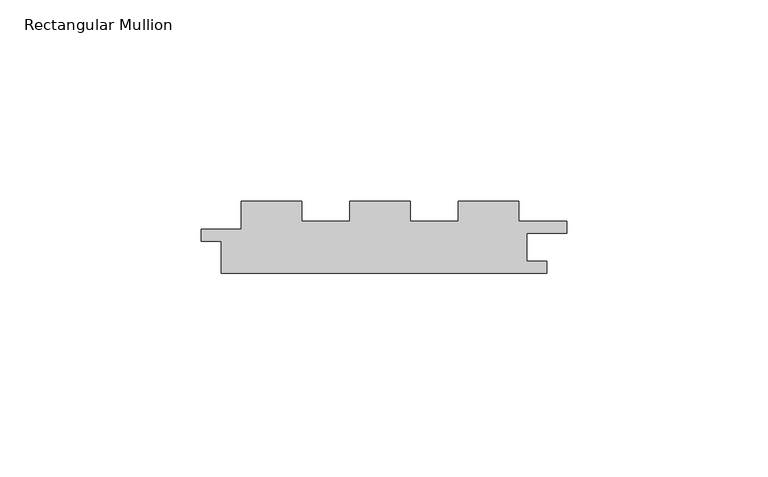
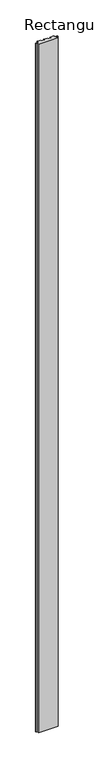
"""IFC4 building model written with IfcOpenShell, lengths in millimetres: member geometry, Rectangular Mullion : Cladding_Timber_Modinex_Castelation_81x18_AlaskanYellowCedar."""

import ifcopenshell
import ifcopenshell.guid

model = None  # the IFC model being written
_history = None  # IfcOwnerHistory: only IFC2X3 demands one
_inside = {}  # id of a spatial element -> (the spatial element, [elements in it])
_under = {}  # id of a project, library or spatial element -> (it, [spatial elements below it])
_declared = {}  # id of a project -> (the project, [libraries it declares])
_typed = {}  # id of a type object -> (the type object, [elements of that type])
_made_of = {}  # id of a material, layer set ... -> (it, [elements and type objects made of it])


def new_model(schema):
    """Start an empty IFC model of exactly this schema.

    Asked for "IFC4X3", IfcOpenShell would pick the latest addendum, in which some entities
    have other attributes; the version numbers below select the first issue.
    IFC2X3 requires an IfcOwnerHistory on every rooted entity: one is made here for all.
    """
    global model, _history
    if schema == "IFC4X3":
        model = ifcopenshell.file(schema_version=(4, 3, 0, 0))
    else:
        model = ifcopenshell.file(schema=schema)
    _inside.clear()
    _under.clear()
    _declared.clear()
    _typed.clear()
    _made_of.clear()
    _history = None
    if model.schema == "IFC2X3":
        org = make("IfcOrganization", Name="unknown")
        user = make(
            "IfcPersonAndOrganization",
            ThePerson=make("IfcPerson", FamilyName="unknown"),
            TheOrganization=org,
        )
        app = make(
            "IfcApplication",
            ApplicationDeveloper=org,
            Version="unknown",
            ApplicationFullName="unknown",
            ApplicationIdentifier="unknown",
        )
        _history = make(
            "IfcOwnerHistory",
            OwningUser=user,
            OwningApplication=app,
            ChangeAction="ADDED",
            CreationDate=0,
        )
    return model


def make(cls, **values):
    """One entity of the class cls with the attributes given. An attribute that is None is left unset."""
    return model.create_entity(
        cls, **{name: value for name, value in values.items() if value is not None}
    )


def rooted(cls, **values):
    """An entity with a GlobalId (a new one), such as an element, a storey or a relation."""
    return make(cls, GlobalId=ifcopenshell.guid.new(), OwnerHistory=_history, **values)


def si_unit(unit_type, name, prefix=None):
    """IfcSIUnit, for example si_unit("LENGTHUNIT", "METRE", prefix="MILLI")."""
    return make("IfcSIUnit", UnitType=unit_type, Prefix=prefix, Name=name)


def assignment(units):
    """IfcUnitAssignment: the units of a project."""
    return None if units is None else make("IfcUnitAssignment", Units=units)


def point(xyz):
    """IfcCartesianPoint."""
    return None if xyz is None else make("IfcCartesianPoint", Coordinates=xyz)


def direction(xyz):
    """IfcDirection."""
    return None if xyz is None else make("IfcDirection", DirectionRatios=xyz)


def frame(location, z_axis=None, x_axis=None):
    """IfcAxis2Placement3D, a coordinate frame: its origin and axes. An axis left out is left unset."""
    return make(
        "IfcAxis2Placement3D",
        Location=point(location),
        Axis=direction(z_axis),
        RefDirection=direction(x_axis),
    )


def origin():
    """The frame at (0, 0, 0) with its axes left unset."""
    return frame((0.0, 0.0, 0.0))


def place(relative_to, where):
    """IfcLocalPlacement: puts the frame where relative to a parent placement (None: the world)."""
    return make(
        "IfcLocalPlacement", PlacementRelTo=relative_to, RelativePlacement=where
    )


def context(
    kind, dimensions, precision=None, world=None, true_north=None, identifier=None
):
    """IfcGeometricRepresentationContext, for example the 3D "Model" context."""
    return make(
        "IfcGeometricRepresentationContext",
        ContextIdentifier=identifier,
        ContextType=kind,
        CoordinateSpaceDimension=dimensions,
        Precision=precision,
        WorldCoordinateSystem=world,
        TrueNorth=true_north,
    )


def project(units=None, contexts=None):
    """IfcProject with its units and contexts."""
    return rooted(
        "IfcProject",
        Name="project",
        RepresentationContexts=contexts,
        UnitsInContext=assignment(units),
    )


def spatial(cls, under=None, at=None, **own):
    """A site, building, storey or space (cls), placed at a placement, below another one or the project."""
    s = rooted(cls, ObjectPlacement=at, **own)
    if under is not None:
        _under.setdefault(under.id(), (under, []))[1].append(s)
    return s


def polyline(points):
    """IfcPolyline through the points."""
    return make("IfcPolyline", Points=[point(p) for p in points])


def outline(outer, holes=None, kind="AREA"):
    """IfcArbitraryClosedProfileDef: a profile drawn as a closed curve; with holes, ...WithVoids."""
    if holes is None:
        return make("IfcArbitraryClosedProfileDef", ProfileType=kind, OuterCurve=outer)
    return make(
        "IfcArbitraryProfileDefWithVoids",
        ProfileType=kind,
        OuterCurve=outer,
        InnerCurves=holes,
    )


def extrude(swept, where, along, depth):
    """IfcExtrudedAreaSolid: the profile swept, set in the frame where, extruded along a direction by depth."""
    return make(
        "IfcExtrudedAreaSolid",
        SweptArea=swept,
        Position=where,
        ExtrudedDirection=direction(along),
        Depth=depth,
    )


def shape(context_of_items, identifier, shape_type, items):
    """IfcShapeRepresentation: the items that make up one representation, for example the "Body"."""
    return make(
        "IfcShapeRepresentation",
        ContextOfItems=context_of_items,
        RepresentationIdentifier=identifier,
        RepresentationType=shape_type,
        Items=items,
    )


def source(mapping_origin, context_of_items, identifier, shape_type, items):
    """IfcRepresentationMap: a shape defined once, which mapped items show again and again."""
    return make(
        "IfcRepresentationMap",
        MappingOrigin=mapping_origin,
        MappedRepresentation=shape(context_of_items, identifier, shape_type, items),
    )


def transform(
    local_origin,
    x_axis=None,
    y_axis=None,
    z_axis=None,
    scale=None,
    scale2=None,
    scale3=None,
    uniform=True,
):
    """IfcCartesianTransformationOperator3D, or its non-uniform kind. x_axis, y_axis, z_axis: its Axis1, 2, 3."""
    if uniform:
        return make(
            "IfcCartesianTransformationOperator3D",
            Axis1=direction(x_axis),
            Axis2=direction(y_axis),
            LocalOrigin=point(local_origin),
            Scale=scale,
            Axis3=direction(z_axis),
        )
    return make(
        "IfcCartesianTransformationOperator3DnonUniform",
        Axis1=direction(x_axis),
        Axis2=direction(y_axis),
        LocalOrigin=point(local_origin),
        Scale=scale,
        Axis3=direction(z_axis),
        Scale2=scale2,
        Scale3=scale3,
    )


def mapped(mapping_source, mapping_target):
    """IfcMappedItem: shows the shape of a source again, moved by a transform."""
    return make(
        "IfcMappedItem", MappingSource=mapping_source, MappingTarget=mapping_target
    )


def made_of(thing, what):
    """Note that an element or type object is made of a material, layer set ...; save() writes the relation."""
    if what is not None:
        _made_of.setdefault(what.id(), (what, []))[1].append(thing)
    return thing


def element(
    cls,
    number,
    at=None,
    inside=None,
    cuts=None,
    type_object=None,
    material=None,
    context=None,
    identifier="Body",
    shape_type=None,
    held_by="IfcProductDefinitionShape",
    body=None,
    shapes=None,
    **own,
):
    """One element of the class cls, such as IfcWall. Its Tag is "e" and its number.

    at: its placement. inside: the storey or other place that contains it. cuts: it is an
    opening in that element (IfcRelVoidsElement). A single representation is given by context,
    identifier, shape_type and body (its items); several are given by shapes. held_by: the class
    of the entity that holds the representations. save() writes the other relations.
    """
    e = rooted(cls, Tag="e%d" % number, ObjectPlacement=at, **own)
    if body is not None:
        shapes = [shape(context, identifier, shape_type, body)]
    if shapes is not None:
        e.Representation = make(held_by, Representations=shapes)
    if inside is not None:
        _inside.setdefault(inside.id(), (inside, []))[1].append(e)
    if cuts is not None:
        rooted(
            "IfcRelVoidsElement", RelatingBuildingElement=cuts, RelatedOpeningElement=e
        )
    if type_object is not None:
        _typed.setdefault(type_object.id(), (type_object, []))[1].append(e)
    return made_of(e, material)


def aggregate(whole, parts):
    """IfcRelAggregates: a whole, such as a stair, and the parts it consists of."""
    return rooted("IfcRelAggregates", RelatingObject=whole, RelatedObjects=parts)


def save(model, path):
    """Write the relations noted so far, then the file.

    IfcRelAggregates (storeys below a building ...), IfcRelContainedInSpatialStructure (elements
    in a storey), IfcRelDefinesByType, IfcRelAssociatesMaterial and IfcRelDeclares: one each for
    every whole, place, type object, material and project.
    """
    for whole, parts in _under.values():
        aggregate(whole, parts)
    for where, things in _inside.values():
        rooted(
            "IfcRelContainedInSpatialStructure",
            RelatedElements=things,
            RelatingStructure=where,
        )
    for kind, things in _typed.values():
        rooted("IfcRelDefinesByType", RelatedObjects=things, RelatingType=kind)
    for what, things in _made_of.values():
        rooted("IfcRelAssociatesMaterial", RelatedObjects=things, RelatingMaterial=what)
    for by, libraries in _declared.values():
        rooted("IfcRelDeclares", RelatingContext=by, RelatedDefinitions=libraries)
    model.write(path)


def rectangular_mullion_14973cdb(model_context):
    return source(origin(), model_context, "Body", "SweptSolid", [
        extrude(outline(polyline([(15.0481486, 13.0), (27.0304703, 13.0), (27.0304703, 18.0), (42.0304703, 18.0), (42.0304703, 13.0), (54.0152351, 13.0), (54.0152351, 18.0), (69.0152351, 18.0), (69.0152351, 13.0), (81.0, 13.0), (81.0, 10.0), (71.0, 10.0), (71.0, 3.0), (76.0481486, 3.0), (76.0481486, 0.0), (-4.9518514, 0.0), (-4.9518514, 8.0), (-9.9518514, 8.0), (-9.9518514, 11.0), (0.0, 11.0), (0.0, 18.0), (15.0481486, 18.0), (15.0481486, 13.0)])), frame((0.0, 0.0, -3000.0), z_axis=(0.0, 0.0, 1.0), x_axis=(1.0, 0.0, 0.0)), (0.0, 0.0, 1.0), 3000.0),
    ])


if __name__ == "__main__":
    model = new_model("IFC4")
    model_context = context("Model", 3, world=origin())
    ifc_project = project(units=[si_unit("LENGTHUNIT", "METRE", prefix="MILLI")], contexts=[model_context])
    site = spatial("IfcSite", under=ifc_project)
    building = spatial("IfcBuilding", under=site)
    placement = place(None, origin())
    rectangular_mullion_shape = rectangular_mullion_14973cdb(model_context)
    element("IfcMember", 1, ObjectType="Rectangular Mullion : Cladding_Timber_Modinex_Castelation_81x18_AlaskanYellowCedar", at=placement, inside=building, context=model_context, shape_type="MappedRepresentation", body=[
        mapped(rectangular_mullion_shape, transform((0.0, 0.0, 0.0), x_axis=(1.0, 0.0, 0.0), y_axis=(0.0, 1.0, 0.0), z_axis=(0.0, 0.0, 1.0))),
    ])
    save(model, "model.ifc")
